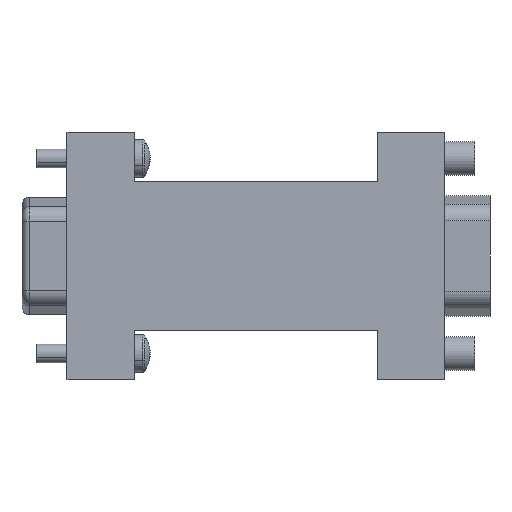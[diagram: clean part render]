
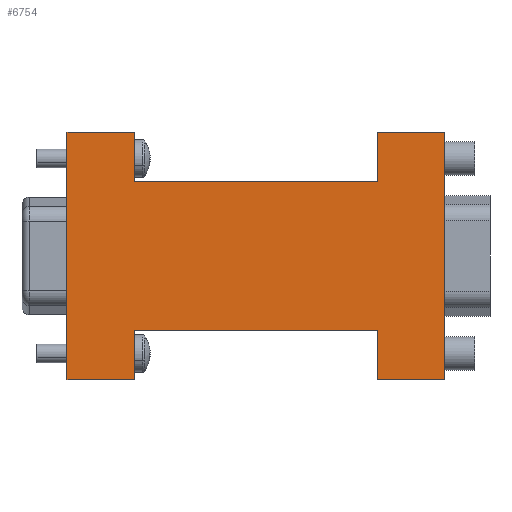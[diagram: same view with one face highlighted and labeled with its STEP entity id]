
A CAD part, front view. The second image highlights one B-rep face of the part: STEP entity #6754.
In plain terms, the highlighted planar face has unit normal (0, -1, 0).
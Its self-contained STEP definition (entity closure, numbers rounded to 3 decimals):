
#51 = LINE ( 'NONE', #7256, #5899 ) ;
#160 = EDGE_LOOP ( 'NONE', ( #8112, #6619, #7002, #5028, #7942, #3623, #7655, #2177, #3381, #850, #5934, #4212 ) ) ;
#197 = CARTESIAN_POINT ( 'NONE',  ( -16.2, 0., -16.5 ) ) ;
#401 = EDGE_CURVE ( 'NONE', #5210, #2381, #6886, .T. ) ;
#402 = LINE ( 'NONE', #7426, #7943 ) ;
#529 = CARTESIAN_POINT ( 'NONE',  ( 25.2, 0., -16.5 ) ) ;
#633 = LINE ( 'NONE', #3840, #1458 ) ;
#638 = VERTEX_POINT ( 'NONE', #6744 ) ;
#761 = VERTEX_POINT ( 'NONE', #4608 ) ;
#850 = ORIENTED_EDGE ( 'NONE', *, *, #1241, .F. ) ;
#870 = VERTEX_POINT ( 'NONE', #1905 ) ;
#939 = DIRECTION ( 'NONE',  ( 0., 0., -1. ) ) ;
#947 = CARTESIAN_POINT ( 'NONE',  ( -16.2, 0., 16.5 ) ) ;
#1241 = EDGE_CURVE ( 'NONE', #870, #1470, #51, .T. ) ;
#1426 = VECTOR ( 'NONE', #7053, 1000. ) ;
#1458 = VECTOR ( 'NONE', #1866, 1000. ) ;
#1470 = VERTEX_POINT ( 'NONE', #529 ) ;
#1866 = DIRECTION ( 'NONE',  ( 0., 0., 1. ) ) ;
#1905 = CARTESIAN_POINT ( 'NONE',  ( 25.2, 0., 16.5 ) ) ;
#2034 = LINE ( 'NONE', #6853, #1426 ) ;
#2062 = VERTEX_POINT ( 'NONE', #3166 ) ;
#2068 = CARTESIAN_POINT ( 'NONE',  ( -25.2, 0., -16.5 ) ) ;
#2100 = EDGE_CURVE ( 'NONE', #4870, #3424, #633, .T. ) ;
#2177 = ORIENTED_EDGE ( 'NONE', *, *, #4198, .F. ) ;
#2324 = DIRECTION ( 'NONE',  ( -1., 0., 0. ) ) ;
#2336 = LINE ( 'NONE', #4601, #4444 ) ;
#2381 = VERTEX_POINT ( 'NONE', #2767 ) ;
#2531 = VECTOR ( 'NONE', #2324, 1000. ) ;
#2629 = CARTESIAN_POINT ( 'NONE',  ( -25.2, 0., -16.5 ) ) ;
#2706 = DIRECTION ( 'NONE',  ( 0., 0., -1. ) ) ;
#2767 = CARTESIAN_POINT ( 'NONE',  ( -25.2, 0., 16.5 ) ) ;
#3147 = LINE ( 'NONE', #4638, #4249 ) ;
#3166 = CARTESIAN_POINT ( 'NONE',  ( 16.2, 0., -16.5 ) ) ;
#3381 = ORIENTED_EDGE ( 'NONE', *, *, #7608, .F. ) ;
#3424 = VERTEX_POINT ( 'NONE', #3959 ) ;
#3436 = DIRECTION ( 'NONE',  ( 1., 0., 0. ) ) ;
#3447 = EDGE_CURVE ( 'NONE', #2381, #4996, #3147, .T. ) ;
#3460 = EDGE_CURVE ( 'NONE', #3424, #870, #402, .T. ) ;
#3623 = ORIENTED_EDGE ( 'NONE', *, *, #4569, .F. ) ;
#3778 = EDGE_CURVE ( 'NONE', #4996, #7262, #2336, .T. ) ;
#3815 = CARTESIAN_POINT ( 'NONE',  ( 0., 0., 0. ) ) ;
#3840 = CARTESIAN_POINT ( 'NONE',  ( 16.2, 0., 9.9 ) ) ;
#3906 = VECTOR ( 'NONE', #4497, 1000. ) ;
#3959 = CARTESIAN_POINT ( 'NONE',  ( 16.2, 0., 16.5 ) ) ;
#4090 = DIRECTION ( 'NONE',  ( 1., 0., 0. ) ) ;
#4094 = EDGE_CURVE ( 'NONE', #761, #638, #7035, .T. ) ;
#4152 = VECTOR ( 'NONE', #7547, 1000. ) ;
#4198 = EDGE_CURVE ( 'NONE', #2062, #761, #2034, .T. ) ;
#4212 = ORIENTED_EDGE ( 'NONE', *, *, #2100, .F. ) ;
#4226 = CARTESIAN_POINT ( 'NONE',  ( -16.2, 0., 9.9 ) ) ;
#4249 = VECTOR ( 'NONE', #3436, 1000. ) ;
#4255 = EDGE_CURVE ( 'NONE', #7498, #5210, #6943, .T. ) ;
#4261 = CARTESIAN_POINT ( 'NONE',  ( -16.2, 0., -9.9 ) ) ;
#4283 = CARTESIAN_POINT ( 'NONE',  ( 16.2, 0., -16.5 ) ) ;
#4444 = VECTOR ( 'NONE', #2706, 1000. ) ;
#4497 = DIRECTION ( 'NONE',  ( 0., 0., 1. ) ) ;
#4569 = EDGE_CURVE ( 'NONE', #638, #7498, #4832, .T. ) ;
#4601 = CARTESIAN_POINT ( 'NONE',  ( -16.2, 0., 9.9 ) ) ;
#4608 = CARTESIAN_POINT ( 'NONE',  ( 16.2, 0., -9.9 ) ) ;
#4638 = CARTESIAN_POINT ( 'NONE',  ( -16.2, 0., 16.5 ) ) ;
#4832 = LINE ( 'NONE', #6782, #7622 ) ;
#4870 = VERTEX_POINT ( 'NONE', #5118 ) ;
#4996 = VERTEX_POINT ( 'NONE', #947 ) ;
#5028 = ORIENTED_EDGE ( 'NONE', *, *, #401, .F. ) ;
#5118 = CARTESIAN_POINT ( 'NONE',  ( 16.2, 0., 9.9 ) ) ;
#5210 = VERTEX_POINT ( 'NONE', #2068 ) ;
#5524 = EDGE_CURVE ( 'NONE', #7262, #4870, #7451, .T. ) ;
#5871 = FACE_OUTER_BOUND ( 'NONE', #160, .T. ) ;
#5899 = VECTOR ( 'NONE', #939, 1000. ) ;
#5934 = ORIENTED_EDGE ( 'NONE', *, *, #3460, .F. ) ;
#6036 = LINE ( 'NONE', #4283, #7437 ) ;
#6319 = CARTESIAN_POINT ( 'NONE',  ( -16.2, 0., -16.5 ) ) ;
#6555 = VECTOR ( 'NONE', #7432, 1000. ) ;
#6619 = ORIENTED_EDGE ( 'NONE', *, *, #3778, .F. ) ;
#6744 = CARTESIAN_POINT ( 'NONE',  ( -16.2, 0., -9.9 ) ) ;
#6754 = ADVANCED_FACE ( 'NONE', ( #5871 ), #6966, .T. ) ;
#6782 = CARTESIAN_POINT ( 'NONE',  ( -16.2, 0., -16.5 ) ) ;
#6850 = DIRECTION ( 'NONE',  ( -1., 0., 0. ) ) ;
#6853 = CARTESIAN_POINT ( 'NONE',  ( 16.2, 0., -16.5 ) ) ;
#6886 = LINE ( 'NONE', #2629, #3906 ) ;
#6943 = LINE ( 'NONE', #6319, #4152 ) ;
#6966 = PLANE ( 'NONE',  #7585 ) ;
#6995 = DIRECTION ( 'NONE',  ( 0., -1., 0. ) ) ;
#7002 = ORIENTED_EDGE ( 'NONE', *, *, #3447, .F. ) ;
#7035 = LINE ( 'NONE', #4261, #2531 ) ;
#7053 = DIRECTION ( 'NONE',  ( 0., 0., 1. ) ) ;
#7256 = CARTESIAN_POINT ( 'NONE',  ( 25.2, 0., -16.5 ) ) ;
#7262 = VERTEX_POINT ( 'NONE', #7565 ) ;
#7426 = CARTESIAN_POINT ( 'NONE',  ( 16.2, 0., 16.5 ) ) ;
#7432 = DIRECTION ( 'NONE',  ( 1., 0., 0. ) ) ;
#7437 = VECTOR ( 'NONE', #6850, 1000. ) ;
#7451 = LINE ( 'NONE', #4226, #6555 ) ;
#7498 = VERTEX_POINT ( 'NONE', #197 ) ;
#7547 = DIRECTION ( 'NONE',  ( -1., 0., 0. ) ) ;
#7565 = CARTESIAN_POINT ( 'NONE',  ( -16.2, 0., 9.9 ) ) ;
#7585 = AXIS2_PLACEMENT_3D ( 'NONE', #3815, #6995, #7662 ) ;
#7608 = EDGE_CURVE ( 'NONE', #1470, #2062, #6036, .T. ) ;
#7622 = VECTOR ( 'NONE', #8023, 1000. ) ;
#7655 = ORIENTED_EDGE ( 'NONE', *, *, #4094, .F. ) ;
#7662 = DIRECTION ( 'NONE',  ( 0., 0., -1. ) ) ;
#7942 = ORIENTED_EDGE ( 'NONE', *, *, #4255, .F. ) ;
#7943 = VECTOR ( 'NONE', #4090, 1000. ) ;
#8023 = DIRECTION ( 'NONE',  ( 0., 0., -1. ) ) ;
#8112 = ORIENTED_EDGE ( 'NONE', *, *, #5524, .F. ) ;
